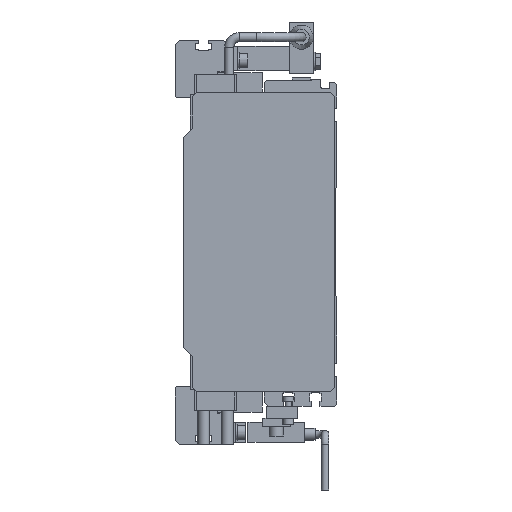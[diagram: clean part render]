
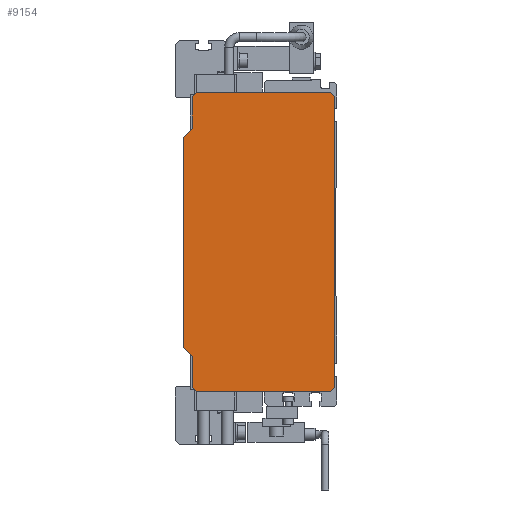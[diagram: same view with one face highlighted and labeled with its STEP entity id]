
A CAD part, left-side view. The second image highlights one B-rep face of the part: STEP entity #9154.
In plain terms, the highlighted planar face has unit normal (-1, 0, 0).
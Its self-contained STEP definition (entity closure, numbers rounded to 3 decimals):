
#501=ORIENTED_EDGE('',*,*,#3022,.F.);
#502=ORIENTED_EDGE('',*,*,#3057,.F.);
#503=ORIENTED_EDGE('',*,*,#3054,.F.);
#504=ORIENTED_EDGE('',*,*,#3050,.F.);
#505=ORIENTED_EDGE('',*,*,#3048,.F.);
#506=ORIENTED_EDGE('',*,*,#3046,.F.);
#507=ORIENTED_EDGE('',*,*,#3043,.F.);
#508=ORIENTED_EDGE('',*,*,#3039,.F.);
#509=ORIENTED_EDGE('',*,*,#3037,.F.);
#510=ORIENTED_EDGE('',*,*,#3034,.F.);
#511=ORIENTED_EDGE('',*,*,#3029,.F.);
#512=ORIENTED_EDGE('',*,*,#3026,.F.);
#3022=EDGE_CURVE('',#4308,#4309,#5196,.T.);
#3026=EDGE_CURVE('',#4309,#4312,#5200,.T.);
#3029=EDGE_CURVE('',#4312,#4313,#5203,.T.);
#3034=EDGE_CURVE('',#4313,#4316,#5208,.T.);
#3037=EDGE_CURVE('',#4316,#4317,#5211,.T.);
#3039=EDGE_CURVE('',#4317,#4318,#5213,.T.);
#3043=EDGE_CURVE('',#4318,#4321,#5217,.T.);
#3046=EDGE_CURVE('',#4321,#4322,#5220,.T.);
#3048=EDGE_CURVE('',#4322,#4323,#5222,.T.);
#3050=EDGE_CURVE('',#4323,#4324,#5224,.T.);
#3054=EDGE_CURVE('',#4324,#4327,#5228,.T.);
#3057=EDGE_CURVE('',#4327,#4308,#5231,.T.);
#4308=VERTEX_POINT('',#13252);
#4309=VERTEX_POINT('',#13254);
#4312=VERTEX_POINT('',#13262);
#4313=VERTEX_POINT('',#13267);
#4316=VERTEX_POINT('',#13276);
#4317=VERTEX_POINT('',#13281);
#4318=VERTEX_POINT('',#13285);
#4321=VERTEX_POINT('',#13293);
#4322=VERTEX_POINT('',#13298);
#4323=VERTEX_POINT('',#13302);
#4324=VERTEX_POINT('',#13306);
#4327=VERTEX_POINT('',#13314);
#5196=LINE('',#13253,#6338);
#5200=LINE('',#13261,#6342);
#5203=LINE('',#13266,#6345);
#5208=LINE('',#13275,#6350);
#5211=LINE('',#13280,#6353);
#5213=LINE('',#13284,#6355);
#5217=LINE('',#13292,#6359);
#5220=LINE('',#13297,#6362);
#5222=LINE('',#13301,#6364);
#5224=LINE('',#13305,#6366);
#5228=LINE('',#13313,#6370);
#5231=LINE('',#13318,#6373);
#6338=VECTOR('',#10595,1000.);
#6342=VECTOR('',#10601,1000.);
#6345=VECTOR('',#10606,1000.);
#6350=VECTOR('',#10613,1000.);
#6353=VECTOR('',#10618,1000.);
#6355=VECTOR('',#10622,1000.);
#6359=VECTOR('',#10628,1000.);
#6362=VECTOR('',#10633,1000.);
#6364=VECTOR('',#10637,1000.);
#6366=VECTOR('',#10641,1000.);
#6370=VECTOR('',#10647,1000.);
#6373=VECTOR('',#10652,1000.);
#7347=EDGE_LOOP('',(#501,#502,#503,#504,#505,#506,#507,#508,#509,#510,#511,
#512));
#8025=FACE_BOUND('',#7347,.T.);
#8703=PLANE('',#9733);
#9154=ADVANCED_FACE('',(#8025),#8703,.F.);
#9733=AXIS2_PLACEMENT_3D('',#13319,#10653,#10654);
#10595=DIRECTION('',(0.,-1.,0.));
#10601=DIRECTION('',(0.,-0.707,-0.707));
#10606=DIRECTION('',(0.,0.,-1.));
#10613=DIRECTION('',(0.,0.707,-0.707));
#10618=DIRECTION('',(0.,1.,0.));
#10622=DIRECTION('',(0.,0.707,0.707));
#10628=DIRECTION('',(0.,0.,1.));
#10633=DIRECTION('',(0.,0.707,0.707));
#10637=DIRECTION('',(0.,0.,1.));
#10641=DIRECTION('',(0.,-0.707,0.707));
#10647=DIRECTION('',(0.,0.,1.));
#10652=DIRECTION('',(0.,-0.707,0.707));
#10653=DIRECTION('',(1.,0.,0.));
#10654=DIRECTION('',(0.,0.,-1.));
#13252=CARTESIAN_POINT('',(-10.,69.5,74.));
#13253=CARTESIAN_POINT('',(-10.,69.5,74.));
#13254=CARTESIAN_POINT('',(-10.,3.,74.));
#13261=CARTESIAN_POINT('',(-10.,3.,74.));
#13262=CARTESIAN_POINT('',(-10.,1.,72.));
#13266=CARTESIAN_POINT('',(-10.,1.,72.));
#13267=CARTESIAN_POINT('',(-10.,1.,-72.));
#13275=CARTESIAN_POINT('',(-10.,1.,-72.));
#13276=CARTESIAN_POINT('',(-10.,3.,-74.));
#13280=CARTESIAN_POINT('',(-10.,3.,-74.));
#13281=CARTESIAN_POINT('',(-10.,69.5,-74.));
#13284=CARTESIAN_POINT('',(-10.,69.5,-74.));
#13285=CARTESIAN_POINT('',(-10.,71.5,-72.));
#13292=CARTESIAN_POINT('',(-10.,71.5,-72.));
#13293=CARTESIAN_POINT('',(-10.,71.5,-56.5));
#13297=CARTESIAN_POINT('',(-10.,71.5,-56.5));
#13298=CARTESIAN_POINT('',(-10.,76.,-52.));
#13301=CARTESIAN_POINT('',(-10.,76.,-52.));
#13302=CARTESIAN_POINT('',(-10.,76.,52.));
#13305=CARTESIAN_POINT('',(-10.,76.,52.));
#13306=CARTESIAN_POINT('',(-10.,71.5,56.5));
#13313=CARTESIAN_POINT('',(-10.,71.5,56.5));
#13314=CARTESIAN_POINT('',(-10.,71.5,72.));
#13318=CARTESIAN_POINT('',(-10.,71.5,72.));
#13319=CARTESIAN_POINT('',(-10.,0.,0.));
